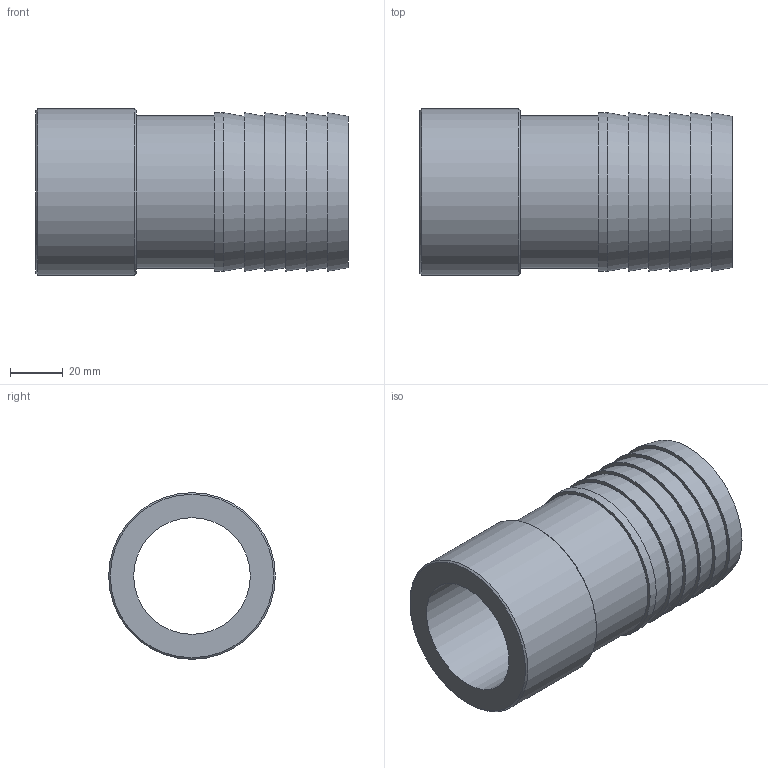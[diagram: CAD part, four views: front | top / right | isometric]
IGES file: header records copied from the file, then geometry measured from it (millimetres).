
Global section: file name: 053600063.ipt; native system: Autodesk Inventor 2015; preprocessor: unknown; author: KIM; date: 20171207.165518; units: millimetre
Bounding box: 118 x 63 x 63 mm (x, y, z)
Volume: 151718.1 mm3; surface area: 43152.3 mm2
Topology: 1 solids, 1 shells, 21 faces, 35 edges, 23 vertices
Faces by surface type: plane 9, cone 8, cylinder 3, revolution 1
Full cylindrical faces by diameter (mm): 57.6 x1, 60 x1, 63 x1
